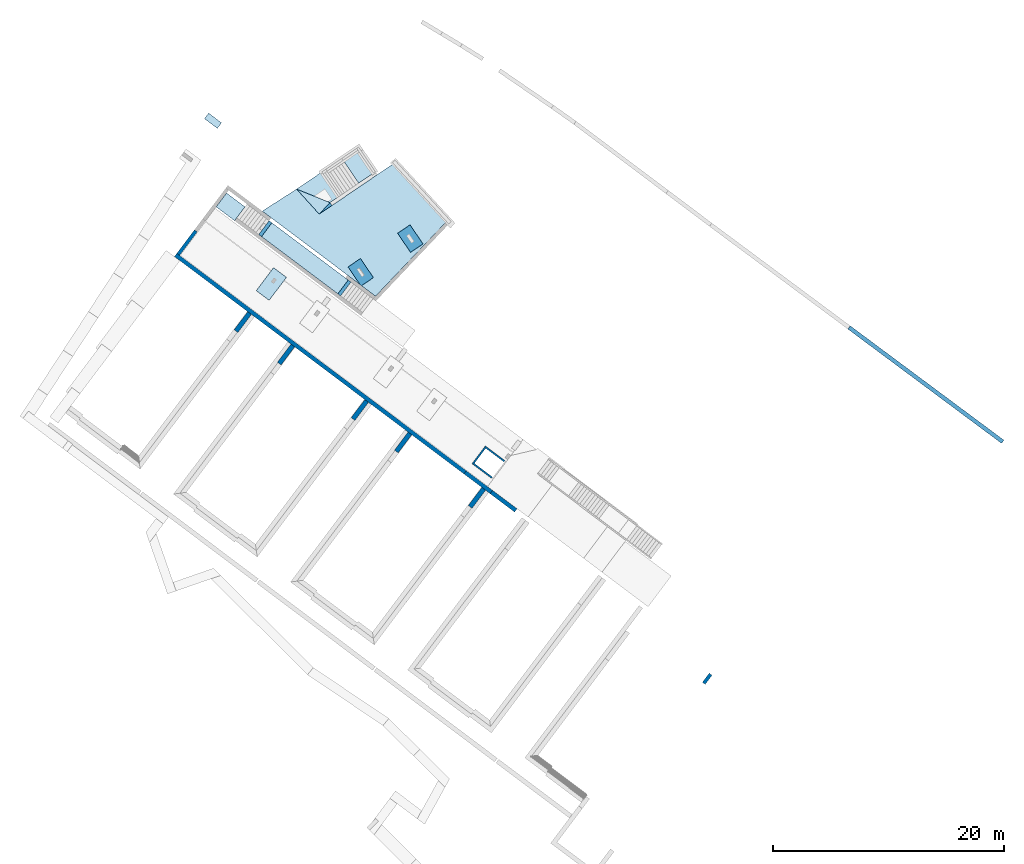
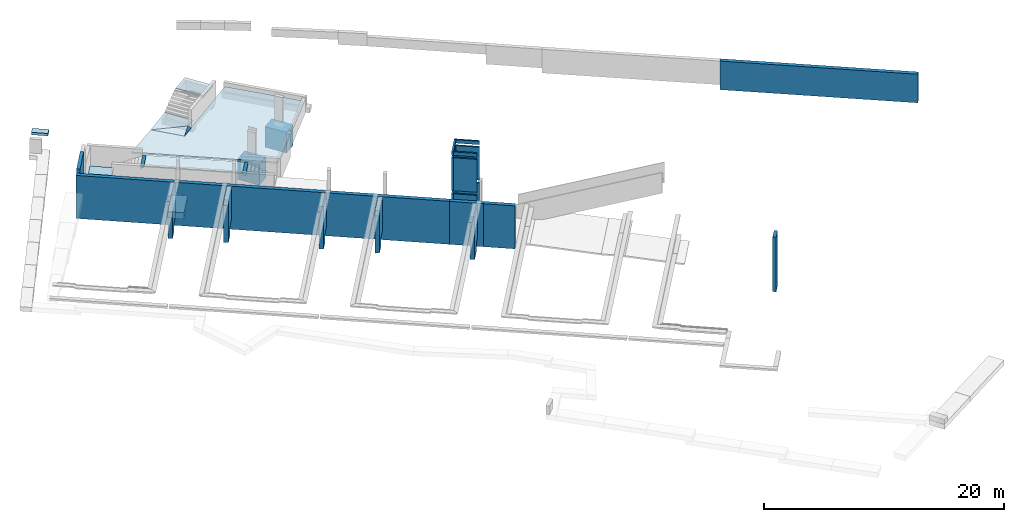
# One storey, part 3 of 11: 14 walls, 13 slabs, 12 openings, 3 elements without a shape of their own.
"""IFC2X3 building model written with IfcOpenShell, lengths in metres."""

import ifcopenshell
import ifcopenshell.guid

model = None  # the IFC model being written
_history = None  # IfcOwnerHistory: only IFC2X3 demands one
_inside = {}  # id of a spatial element -> (the spatial element, [elements in it])
_under = {}  # id of a project, library or spatial element -> (it, [spatial elements below it])
_declared = {}  # id of a project -> (the project, [libraries it declares])
_typed = {}  # id of a type object -> (the type object, [elements of that type])
_made_of = {}  # id of a material, layer set ... -> (it, [elements and type objects made of it])


def new_model(schema):
    """Start an empty IFC model of exactly this schema.

    Asked for "IFC4X3", IfcOpenShell would pick the latest addendum, in which some entities
    have other attributes; the version numbers below select the first issue.
    IFC2X3 requires an IfcOwnerHistory on every rooted entity: one is made here for all.
    """
    global model, _history
    if schema == "IFC4X3":
        model = ifcopenshell.file(schema_version=(4, 3, 0, 0))
    else:
        model = ifcopenshell.file(schema=schema)
    _inside.clear()
    _under.clear()
    _declared.clear()
    _typed.clear()
    _made_of.clear()
    _history = None
    if model.schema == "IFC2X3":
        org = make("IfcOrganization", Name="unknown")
        user = make(
            "IfcPersonAndOrganization",
            ThePerson=make("IfcPerson", FamilyName="unknown"),
            TheOrganization=org,
        )
        app = make(
            "IfcApplication",
            ApplicationDeveloper=org,
            Version="unknown",
            ApplicationFullName="unknown",
            ApplicationIdentifier="unknown",
        )
        _history = make(
            "IfcOwnerHistory",
            OwningUser=user,
            OwningApplication=app,
            ChangeAction="ADDED",
            CreationDate=0,
        )
    return model


def make(cls, **values):
    """One entity of the class cls with the attributes given. An attribute that is None is left unset."""
    return model.create_entity(
        cls, **{name: value for name, value in values.items() if value is not None}
    )


def entity(cls, *values):
    """Any entity or typed value of the class cls, its attributes in the order of the schema. None: left unset."""
    e = model.create_entity(cls)
    for i, value in enumerate(values):
        if value is not None:
            e[i] = value
    return e


def rooted(cls, **values):
    """An entity with a GlobalId (a new one), such as an element, a storey or a relation."""
    return make(cls, GlobalId=ifcopenshell.guid.new(), OwnerHistory=_history, **values)


def si_unit(unit_type, name, prefix=None):
    """IfcSIUnit, for example si_unit("LENGTHUNIT", "METRE", prefix="MILLI")."""
    return make("IfcSIUnit", UnitType=unit_type, Prefix=prefix, Name=name)


def converted_unit(unit_type, name, factor, base, dimensions=None, offset=None):
    """IfcConversionBasedUnit, such as the inch: factor (a typed value) times the base unit."""
    return make(
        "IfcConversionBasedUnit"
        if offset is None
        else "IfcConversionBasedUnitWithOffset",
        ConversionOffset=offset,
        Dimensions=None
        if dimensions is None
        else entity("IfcDimensionalExponents", *dimensions),
        UnitType=unit_type,
        Name=name,
        ConversionFactor=make(
            "IfcMeasureWithUnit", ValueComponent=factor, UnitComponent=base
        ),
    )


def derived_unit(unit_type, elements):
    """IfcDerivedUnit: a product of units, each with its exponent."""
    return make(
        "IfcDerivedUnit",
        Elements=[
            make("IfcDerivedUnitElement", Unit=unit, Exponent=power)
            for unit, power in elements
        ],
        UnitType=unit_type,
    )


def assignment(units):
    """IfcUnitAssignment: the units of a project."""
    return None if units is None else make("IfcUnitAssignment", Units=units)


def point(xyz):
    """IfcCartesianPoint."""
    return None if xyz is None else make("IfcCartesianPoint", Coordinates=xyz)


def direction(xyz):
    """IfcDirection."""
    return None if xyz is None else make("IfcDirection", DirectionRatios=xyz)


def frame(location, z_axis=None, x_axis=None):
    """IfcAxis2Placement3D, a coordinate frame: its origin and axes. An axis left out is left unset."""
    return make(
        "IfcAxis2Placement3D",
        Location=point(location),
        Axis=direction(z_axis),
        RefDirection=direction(x_axis),
    )


def frame_2d(location, x_axis=None):
    """IfcAxis2Placement2D, a coordinate frame in the plane: its origin and x axis."""
    return make(
        "IfcAxis2Placement2D", Location=point(location), RefDirection=direction(x_axis)
    )


def origin():
    """The frame at (0, 0, 0) with its axes left unset."""
    return frame((0.0, 0.0, 0.0))


def origin_2d_with_axis():
    """The frame at (0, 0) in the plane with the x axis (1, 0) written out."""
    return frame_2d((0.0, 0.0), x_axis=(1.0, 0.0))


def place(relative_to, where):
    """IfcLocalPlacement: puts the frame where relative to a parent placement (None: the world)."""
    return make(
        "IfcLocalPlacement", PlacementRelTo=relative_to, RelativePlacement=where
    )


def context(
    kind, dimensions, precision=None, world=None, true_north=None, identifier=None
):
    """IfcGeometricRepresentationContext, for example the 3D "Model" context."""
    return make(
        "IfcGeometricRepresentationContext",
        ContextIdentifier=identifier,
        ContextType=kind,
        CoordinateSpaceDimension=dimensions,
        Precision=precision,
        WorldCoordinateSystem=world,
        TrueNorth=true_north,
    )


def subcontext(parent, identifier, kind, view, scale=None):
    """IfcGeometricRepresentationSubContext, for example "Body" below "Model"."""
    return make(
        "IfcGeometricRepresentationSubContext",
        ContextIdentifier=identifier,
        ContextType=kind,
        ParentContext=parent,
        TargetScale=scale,
        TargetView=view,
    )


def project(units=None, contexts=None):
    """IfcProject with its units and contexts."""
    return rooted(
        "IfcProject",
        Name="project",
        RepresentationContexts=contexts,
        UnitsInContext=assignment(units),
    )


def spatial(cls, under=None, at=None, **own):
    """A site, building, storey or space (cls), placed at a placement, below another one or the project."""
    s = rooted(cls, ObjectPlacement=at, **own)
    if under is not None:
        _under.setdefault(under.id(), (under, []))[1].append(s)
    return s


def polyline(points):
    """IfcPolyline through the points."""
    return make("IfcPolyline", Points=[point(p) for p in points])


def profile(cls, at=None, kind="AREA", **sizes):
    """A parametric profile (cls). Its sizes go by their IFC names, for example OverallWidth=200.0."""
    return make(cls, ProfileType=kind, Position=at, **sizes)


def rectangle(**sizes):
    """IfcRectangleProfileDef."""
    return profile("IfcRectangleProfileDef", **sizes)


def outline(outer, holes=None, kind="AREA"):
    """IfcArbitraryClosedProfileDef: a profile drawn as a closed curve; with holes, ...WithVoids."""
    if holes is None:
        return make("IfcArbitraryClosedProfileDef", ProfileType=kind, OuterCurve=outer)
    return make(
        "IfcArbitraryProfileDefWithVoids",
        ProfileType=kind,
        OuterCurve=outer,
        InnerCurves=holes,
    )


def extrude(swept, where, along, depth):
    """IfcExtrudedAreaSolid: the profile swept, set in the frame where, extruded along a direction by depth."""
    return make(
        "IfcExtrudedAreaSolid",
        SweptArea=swept,
        Position=where,
        ExtrudedDirection=direction(along),
        Depth=depth,
    )


def clip(a, b, op="DIFFERENCE"):
    """IfcBooleanClippingResult: the solid a cut by the half space b."""
    return make(
        "IfcBooleanClippingResult", Operator=op, FirstOperand=a, SecondOperand=b
    )


def halfspace(plane, agree):
    """IfcHalfSpaceSolid: all space on one side of the plane z = 0 of the frame plane."""
    return make(
        "IfcHalfSpaceSolid",
        BaseSurface=make("IfcPlane", Position=plane),
        AgreementFlag=agree,
    )


def shape(context_of_items, identifier, shape_type, items):
    """IfcShapeRepresentation: the items that make up one representation, for example the "Body"."""
    return make(
        "IfcShapeRepresentation",
        ContextOfItems=context_of_items,
        RepresentationIdentifier=identifier,
        RepresentationType=shape_type,
        Items=items,
    )


def material(Name=None, Category=None):
    """IfcMaterial."""
    return make("IfcMaterial", Name=Name, Category=Category)


def layer(
    of_material, thickness, ventilated=None, Name=None, Category=None, Priority=None
):
    """IfcMaterialLayer: one layer of a wall or slab, of a material (None: an air gap)."""
    return make(
        "IfcMaterialLayer",
        Material=of_material,
        LayerThickness=thickness,
        IsVentilated=ventilated,
        Name=Name,
        Category=Category,
        Priority=Priority,
    )


def layer_set(layers, Name=None):
    """IfcMaterialLayerSet."""
    return make("IfcMaterialLayerSet", MaterialLayers=layers, LayerSetName=Name)


def layer_usage(for_layer_set, set_direction, sense, offset, extent=None):
    """IfcMaterialLayerSetUsage: how a layer set lies in its element."""
    return make(
        "IfcMaterialLayerSetUsage",
        ForLayerSet=for_layer_set,
        LayerSetDirection=set_direction,
        DirectionSense=sense,
        OffsetFromReferenceLine=offset,
        ReferenceExtent=extent,
    )


def made_of(thing, what):
    """Note that an element or type object is made of a material, layer set ...; save() writes the relation."""
    if what is not None:
        _made_of.setdefault(what.id(), (what, []))[1].append(thing)
    return thing


def type_object(cls, material=None, **own):
    """A type object (cls), such as IfcWallType, which elements share."""
    return made_of(rooted(cls, **own), material)


def element(
    cls,
    number,
    at=None,
    inside=None,
    cuts=None,
    type_object=None,
    material=None,
    context=None,
    identifier="Body",
    shape_type=None,
    held_by="IfcProductDefinitionShape",
    body=None,
    shapes=None,
    **own,
):
    """One element of the class cls, such as IfcWall. Its Tag is "e" and its number.

    at: its placement. inside: the storey or other place that contains it. cuts: it is an
    opening in that element (IfcRelVoidsElement). A single representation is given by context,
    identifier, shape_type and body (its items); several are given by shapes. held_by: the class
    of the entity that holds the representations. save() writes the other relations.
    """
    e = rooted(cls, Tag="e%d" % number, ObjectPlacement=at, **own)
    if body is not None:
        shapes = [shape(context, identifier, shape_type, body)]
    if shapes is not None:
        e.Representation = make(held_by, Representations=shapes)
    if inside is not None:
        _inside.setdefault(inside.id(), (inside, []))[1].append(e)
    if cuts is not None:
        rooted(
            "IfcRelVoidsElement", RelatingBuildingElement=cuts, RelatedOpeningElement=e
        )
    if type_object is not None:
        _typed.setdefault(type_object.id(), (type_object, []))[1].append(e)
    return made_of(e, material)


def aggregate(whole, parts):
    """IfcRelAggregates: a whole, such as a stair, and the parts it consists of."""
    return rooted("IfcRelAggregates", RelatingObject=whole, RelatedObjects=parts)


def save(model, path):
    """Write the relations noted so far, then the file.

    IfcRelAggregates (storeys below a building ...), IfcRelContainedInSpatialStructure (elements
    in a storey), IfcRelDefinesByType, IfcRelAssociatesMaterial and IfcRelDeclares: one each for
    every whole, place, type object, material and project.
    """
    for whole, parts in _under.values():
        aggregate(whole, parts)
    for where, things in _inside.values():
        rooted(
            "IfcRelContainedInSpatialStructure",
            RelatedElements=things,
            RelatingStructure=where,
        )
    for kind, things in _typed.values():
        rooted("IfcRelDefinesByType", RelatedObjects=things, RelatingType=kind)
    for what, things in _made_of.values():
        rooted("IfcRelAssociatesMaterial", RelatedObjects=things, RelatingMaterial=what)
    for by, libraries in _declared.values():
        rooted("IfcRelDeclares", RelatingContext=by, RelatedDefinitions=libraries)
    model.write(path)


model = new_model("IFC2X3")

# Units and contexts
model_context = context("Model", 3, precision=1e-05, world=origin(), true_north=direction((6.123031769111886e-17, 1.0)))
body_context = subcontext(model_context, "Body", "Model", "MODEL_VIEW")
ifc_project = project(units=[si_unit("LENGTHUNIT", "METRE"), si_unit("AREAUNIT", "SQUARE_METRE"), si_unit("VOLUMEUNIT", "CUBIC_METRE"), converted_unit("PLANEANGLEUNIT", "DEGREE", entity("IfcRatioMeasure", 0.017453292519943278), si_unit("PLANEANGLEUNIT", "RADIAN"), dimensions=[0, 0, 0, 0, 0, 0, 0]), si_unit("MASSUNIT", "GRAM", prefix="KILO"), derived_unit("MASSDENSITYUNIT", [(si_unit("MASSUNIT", "GRAM", prefix="KILO"), 1), (si_unit("LENGTHUNIT", "METRE"), -3)]), derived_unit("IONCONCENTRATIONUNIT", [(si_unit("MASSUNIT", "GRAM", prefix="KILO"), 1), (si_unit("LENGTHUNIT", "METRE"), -3)]), derived_unit("MOMENTOFINERTIAUNIT", [(si_unit("LENGTHUNIT", "METRE"), 4)]), si_unit("TIMEUNIT", "SECOND"), si_unit("FREQUENCYUNIT", "HERTZ"), si_unit("THERMODYNAMICTEMPERATUREUNIT", "DEGREE_CELSIUS"), derived_unit("THERMALTRANSMITTANCEUNIT", [(si_unit("MASSUNIT", "GRAM", prefix="KILO"), 1), (si_unit("THERMODYNAMICTEMPERATUREUNIT", "KELVIN"), -1), (si_unit("TIMEUNIT", "SECOND"), -3)]), derived_unit("THERMALCONDUCTANCEUNIT", [(si_unit("MASSUNIT", "GRAM", prefix="KILO"), 1), (si_unit("THERMODYNAMICTEMPERATUREUNIT", "KELVIN"), -1), (si_unit("TIMEUNIT", "SECOND"), -3), (si_unit("LENGTHUNIT", "METRE"), 1)]), derived_unit("VOLUMETRICFLOWRATEUNIT", [(si_unit("LENGTHUNIT", "METRE"), 3), (si_unit("TIMEUNIT", "SECOND"), -1)]), derived_unit("MASSFLOWRATEUNIT", [(si_unit("MASSUNIT", "GRAM", prefix="KILO"), 1), (si_unit("TIMEUNIT", "SECOND"), -1)]), derived_unit("ROTATIONALFREQUENCYUNIT", [(si_unit("TIMEUNIT", "SECOND"), -1)]), si_unit("ELECTRICCURRENTUNIT", "AMPERE"), si_unit("ELECTRICVOLTAGEUNIT", "VOLT"), si_unit("POWERUNIT", "WATT"), si_unit("FORCEUNIT", "NEWTON", prefix="KILO"), si_unit("ILLUMINANCEUNIT", "LUX"), si_unit("LUMINOUSFLUXUNIT", "LUMEN"), si_unit("LUMINOUSINTENSITYUNIT", "CANDELA"), derived_unit("USERDEFINED", [(si_unit("MASSUNIT", "GRAM", prefix="KILO"), -1), (si_unit("LENGTHUNIT", "METRE"), -2), (si_unit("TIMEUNIT", "SECOND"), 3), (si_unit("LUMINOUSFLUXUNIT", "LUMEN"), 1)]), derived_unit("USERDEFINED", [(si_unit("MASSUNIT", "GRAM", prefix="KILO"), 1), (si_unit("TIMEUNIT", "SECOND"), -3), (si_unit("LENGTHUNIT", "METRE"), 3), (si_unit("ELECTRICCURRENTUNIT", "AMPERE"), -2)]), derived_unit("SOUNDPOWERUNIT", [(si_unit("MASSUNIT", "GRAM", prefix="KILO"), 1), (si_unit("TIMEUNIT", "SECOND"), -3), (si_unit("LENGTHUNIT", "METRE"), 2)]), derived_unit("SOUNDPRESSUREUNIT", [(si_unit("MASSUNIT", "GRAM", prefix="KILO"), 1), (si_unit("LENGTHUNIT", "METRE"), -1), (si_unit("TIMEUNIT", "SECOND"), -2)]), derived_unit("LINEARVELOCITYUNIT", [(si_unit("LENGTHUNIT", "METRE"), 1), (si_unit("TIMEUNIT", "SECOND"), -1)]), si_unit("PRESSUREUNIT", "PASCAL"), derived_unit("USERDEFINED", [(si_unit("MASSUNIT", "GRAM", prefix="KILO"), 1), (si_unit("LENGTHUNIT", "METRE"), -2), (si_unit("TIMEUNIT", "SECOND"), -2)]), derived_unit("LINEARFORCEUNIT", [(si_unit("MASSUNIT", "GRAM", prefix="KILO"), 1), (si_unit("TIMEUNIT", "SECOND"), -2)]), derived_unit("PLANARFORCEUNIT", [(si_unit("MASSUNIT", "GRAM", prefix="KILO"), 1), (si_unit("LENGTHUNIT", "METRE"), -1), (si_unit("TIMEUNIT", "SECOND"), -2)]), derived_unit("SPECIFICHEATCAPACITYUNIT", [(si_unit("THERMODYNAMICTEMPERATUREUNIT", "KELVIN"), -1), (si_unit("LENGTHUNIT", "METRE"), 2), (si_unit("TIMEUNIT", "SECOND"), -2)]), derived_unit("HEATINGVALUEUNIT", [(si_unit("LENGTHUNIT", "METRE"), 2), (si_unit("TIMEUNIT", "SECOND"), -2)]), derived_unit("VAPORPERMEABILITYUNIT", [(si_unit("LENGTHUNIT", "METRE"), -1), (si_unit("TIMEUNIT", "SECOND"), 1)]), derived_unit("DYNAMICVISCOSITYUNIT", [(si_unit("MASSUNIT", "GRAM", prefix="KILO"), 1), (si_unit("TIMEUNIT", "SECOND"), -1), (si_unit("LENGTHUNIT", "METRE"), -1)]), derived_unit("THERMALEXPANSIONCOEFFICIENTUNIT", [(si_unit("THERMODYNAMICTEMPERATUREUNIT", "KELVIN"), -1)]), derived_unit("MODULUSOFELASTICITYUNIT", [(si_unit("MASSUNIT", "GRAM", prefix="KILO"), 1), (si_unit("LENGTHUNIT", "METRE"), -1), (si_unit("TIMEUNIT", "SECOND"), -2)]), derived_unit("ISOTHERMALMOISTURECAPACITYUNIT", [(si_unit("LENGTHUNIT", "METRE"), 3), (si_unit("MASSUNIT", "GRAM", prefix="KILO"), -1)]), derived_unit("MOISTUREDIFFUSIVITYUNIT", [(si_unit("TIMEUNIT", "SECOND"), -1), (si_unit("LENGTHUNIT", "METRE"), 2)])], contexts=[model_context])

# Site, building, storey
site_placement = place(None, origin())
site = spatial("IfcSite", under=ifc_project, at=site_placement, Name="Default", CompositionType="ELEMENT")
building_placement = place(site_placement, frame((0.0, 0.0, 235.0), z_axis=(0.0, 0.0, 1.0), x_axis=(-0.7996477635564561, 0.6004693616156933, 0.0)))
building = spatial("IfcBuilding", under=site, at=building_placement, CompositionType="ELEMENT")
storey_placement = place(building_placement, frame((0.0, 0.0, -4.459999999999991)))
storey = spatial("IfcBuildingStorey", under=building, at=storey_placement, Name="PS1- Vestuari", CompositionType="ELEMENT", Elevation=-4.459999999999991)

# Slabs
ifc_material_1 = material(Name="_Formigó- Solera- T1- STR")
ifc_layer_1 = layer(ifc_material_1, 0.14999999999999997)
ifc_layer_set_1 = layer_set([ifc_layer_1], Name="Suelo:STR- L- Formigó- Solera- T1- 15 cm")
ifc_layer_usage_1 = layer_usage(ifc_layer_set_1, "AXIS3", "POSITIVE", 0.0)
slab_type_1 = type_object("IfcSlabType", Name="Suelo:STR- L- Formigó- Solera- T1- 15 cm", PredefinedType="FLOOR", material=ifc_layer_set_1)
slab_1_placement = place(storey_placement, origin())
element("IfcSlab", 1, at=slab_1_placement, inside=storey, type_object=slab_type_1, material=ifc_layer_usage_1, Name="Suelo:STR- L- Formigó- Solera- T1- 15 cm", ObjectType="Suelo:STR- L- Formigó- Solera- T1- 15 cm", PredefinedType="FLOOR", context=body_context, shape_type="SweptSolid", body=[
    clip(clip(extrude(rectangle(XDim=1.500299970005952, YDim=1.9999999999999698, at=origin_2d_with_axis()), frame((73.44514768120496, -42.79019175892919, -0.03499999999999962), z_axis=(0.0, -0.019996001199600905, -0.999800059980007), x_axis=(0.0, 0.999800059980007, -0.019996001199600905)), (0.019996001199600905, 0.0, 0.999800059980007), 0.15002999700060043), halfspace(frame((73.44514768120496, -42.79019175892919, -0.18499999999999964), z_axis=(0.0, -0.019996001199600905, -0.999800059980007), x_axis=(-1.0, 0.0, 0.0)), False)), halfspace(frame((73.44514768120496, -42.79019175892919, -0.03499999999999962), z_axis=(0.0, 0.019996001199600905, 0.999800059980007), x_axis=(-1.0, 0.0, 0.0)), False)),
])
slab_2_placement = place(storey_placement, origin())
element("IfcSlab", 2, at=slab_2_placement, inside=storey, type_object=slab_type_1, material=ifc_layer_usage_1, Name="Suelo:STR- L- Formigó- Solera- T1- 15 cm", ObjectType="Suelo:STR- L- Formigó- Solera- T1- 15 cm", PredefinedType="FLOOR", context=body_context, shape_type="SweptSolid", body=[
    clip(clip(extrude(outline(polyline([(-6.028358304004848, -4.182198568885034), (6.269502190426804, -4.182198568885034), (5.0291619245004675, -0.8617708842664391), (2.158940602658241, -1.4164295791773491), (-0.3625370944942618, 5.9436305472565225), (-7.0667093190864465, 4.69896705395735), (-6.028358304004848, -4.182198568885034)])), frame((64.75741787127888, -48.32155413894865, 1.343627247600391), z_axis=(0.0, -0.019996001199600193, -0.9998000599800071), x_axis=(1.0, 0.0, 0.0)), (0.0, -0.019996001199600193, 0.9998000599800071), 0.1500600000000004), halfspace(frame((63.23614768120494, -44.140191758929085, 1.1099700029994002), z_axis=(0.0, -0.01999600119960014, -0.999800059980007), x_axis=(0.0, -0.999800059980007, 0.01999600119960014)), False)), halfspace(frame((63.23614768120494, -44.140191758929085, 1.26), z_axis=(0.0, 0.01999600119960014, 0.999800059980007), x_axis=(0.0, 0.999800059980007, -0.01999600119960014)), False)),
])
slab_3_placement = place(storey_placement, origin())
element("IfcSlab", 3, at=slab_3_placement, inside=storey, type_object=slab_type_1, material=ifc_layer_usage_1, Name="Suelo:STR- L- Formigó- Solera- T1- 15 cm", ObjectType="Suelo:STR- L- Formigó- Solera- T1- 15 cm", PredefinedType="FLOOR", context=body_context, shape_type="SweptSolid", body=[
    clip(clip(extrude(rectangle(XDim=1.5001333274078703, YDim=8.273000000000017, at=frame_2d((8.715250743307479e-15, -3.9968028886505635e-15), x_axis=(1.0, 0.0))), frame((65.60864768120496, -43.090191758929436, 1.25), z_axis=(0.0, -0.013332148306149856, -0.9999111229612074), x_axis=(0.0, 0.9999111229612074, -0.013332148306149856)), (0.013332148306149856, 0.0, 0.9999111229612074), 0.15001333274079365), halfspace(frame((65.60864768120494, -43.090191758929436, 1.1), z_axis=(0.0, -0.013332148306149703, -0.9999111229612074), x_axis=(1.0, 0.0, 0.0)), False)), halfspace(frame((65.60864768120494, -43.090191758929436, 1.25), z_axis=(0.0, 0.013332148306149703, 0.9999111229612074), x_axis=(1.0, 0.0, 0.0)), False)),
])

slab_4_placement = place(storey_placement, frame((66.47308143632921, -49.965716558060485, 1.1711717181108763)))
slab_4 = element("IfcSlab", 4, at=slab_4_placement, inside=storey, Name="Suelo:STR- L- Formigó- Solera- T1- 15 cm", ObjectType="Suelo:STR- L- Formigó- Solera- T1- 15 cm", PredefinedType="NOTDEFINED")
slab_5_placement = place(slab_4_placement, origin())
slab_5 = element("IfcSlab", 5, at=slab_5_placement, type_object=slab_type_1, material=ifc_layer_set_1, Name="Suelo:STR- L- Formigó- Solera- T1- 15 cm", ObjectType="Suelo:STR- L- Formigó- Solera- T1- 15 cm", PredefinedType="FLOOR", context=body_context, shape_type="SweptSolid", body=[
    extrude(outline(polyline([(-1.6569507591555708, -0.8343303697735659), (0.7982277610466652, -1.6746418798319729), (1.6569507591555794, 0.8343303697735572), (-1.3629058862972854, 0.024794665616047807), (-1.6569507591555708, -0.8343303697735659)])), frame((1.6567491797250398, 1.6734723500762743, 0.225025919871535), z_axis=(0.01559804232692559, 0.04552075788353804, 0.9988416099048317), x_axis=(0.9998783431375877, -0.0007101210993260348, -0.015581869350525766)), (0.015581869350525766, 0.04552629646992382, -0.9988416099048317), 0.15000000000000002),
])
slab_6_placement = place(slab_4_placement, origin())
slab_6 = element("IfcSlab", 6, at=slab_6_placement, type_object=slab_type_1, material=ifc_layer_set_1, Name="Suelo:STR- L- Formigó- Solera- T1- 15 cm", ObjectType="Suelo:STR- L- Formigó- Solera- T1- 15 cm", PredefinedType="FLOOR", context=body_context, shape_type="SweptSolid", body=[
    extrude(outline(polyline([(-0.3664589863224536, -0.5787201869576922), (-0.0763047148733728, -0.6820252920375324), (0.07630471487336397, 0.6820252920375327), (-0.3664589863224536, -0.5787201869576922)])), frame((0.3686430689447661, 2.379758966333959, 0.19756686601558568), z_axis=(-0.2081153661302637, 0.09089196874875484, 0.9738719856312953), x_axis=(0.9781042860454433, 0.01933946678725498, 0.2072148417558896)), (-0.2072148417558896, 0.09292666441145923, -0.9738719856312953), 0.15000000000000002),
])
slab_7_placement = place(slab_4_placement, origin())
slab_7 = element("IfcSlab", 7, at=slab_7_placement, type_object=slab_type_1, material=ifc_layer_set_1, Name="Suelo:STR- L- Formigó- Solera- T1- 15 cm", ObjectType="Suelo:STR- L- Formigó- Solera- T1- 15 cm", PredefinedType="FLOOR", context=body_context, shape_type="SweptSolid", body=[
    extrude(outline(polyline([(-1.3440350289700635, -1.0228927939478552), (1.6755868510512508, -0.21248183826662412), (-1.1947605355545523, 0.34152677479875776), (-1.3440350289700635, -1.0228927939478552)])), frame((1.6379850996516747, 2.718819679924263, 0.16229245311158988), z_axis=(0.009372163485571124, 0.06869873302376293, 0.9975934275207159), x_axis=(0.9999560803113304, -0.0006438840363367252, -0.009350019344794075)), (0.009350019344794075, 0.06870175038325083, -0.9975934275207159), 0.15000000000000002),
])
aggregate(slab_4, [slab_5, slab_6, slab_7])

# Slab
ifc_layer_2 = layer(ifc_material_1, 0.2)
ifc_layer_set_2 = layer_set([ifc_layer_2], Name="Suelo:STR- L- Formigó- Solera- T1- 20 cm")
ifc_layer_usage_2 = layer_usage(ifc_layer_set_2, "AXIS3", "POSITIVE", 0.0)
slab_type_2 = type_object("IfcSlabType", Name="Suelo:STR- L- Formigó- Solera- T1- 20 cm", PredefinedType="FLOOR", material=ifc_layer_set_2)
slab_8_placement = place(storey_placement, origin())
element("IfcSlab", 8, at=slab_8_placement, inside=storey, type_object=slab_type_2, material=ifc_layer_usage_2, Name="Suelo:STR- L- Formigó- Solera- T1- 20 cm", ObjectType="Suelo:STR- L- Formigó- Solera- T1- 20 cm", PredefinedType="FLOOR", context=body_context, shape_type="SweptSolid", body=[
    extrude(rectangle(XDim=1.7499999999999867, YDim=2.5949999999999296, at=frame_2d((-1.27675647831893e-15, 9.658940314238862e-15), x_axis=(1.0, 0.0))), frame((66.7361585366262, -52.35948597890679, 2.58), z_axis=(0.0, 0.0, -1.0), x_axis=(-0.3241555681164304, -0.9460037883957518, 0.0)), (0.0, 0.0, 1.0), 0.19999999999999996),
])

# Stair, slab
stair_1_placement = place(storey_placement, origin())
stair_1 = element("IfcStair", 9, at=stair_1_placement, inside=storey, Name="Escalera moldeada in situ:Escalera", ShapeType="STRAIGHT_RUN_STAIR")
ifc_material_2 = material(Name="_Formigó- T1- STR")
slab_type_3 = type_object("IfcSlabType", Name="Descansillo monolítico:STR- Repla formigó 15cm", PredefinedType="LANDING")
slab_9_placement = place(stair_1_placement, frame((61.17214768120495, -43.840191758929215, 0.0)))
slab_9 = element("IfcSlab", 10, at=slab_9_placement, type_object=slab_type_3, material=ifc_material_2, Name="Escalera moldeada in situ:Escalera:42180 Landing 1", ObjectType="Descansillo monolítico:STR- Repla formigó 15cm", PredefinedType="LANDING", context=body_context, shape_type="SweptSolid", body=[
    extrude(outline(polyline([(-0.14761769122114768, -0.15000000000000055), (0.002382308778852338, -0.15000000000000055), (0.07467982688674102, -0.15000000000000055), (0.22023538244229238, 0.15000000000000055), (-0.0020621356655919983, 0.15000000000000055), (-0.14761769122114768, 0.15000000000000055), (-0.14761769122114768, -0.15000000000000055)])), frame((0.15000000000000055, 0.0, 1.1123823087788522), z_axis=(0.0, 1.0, 0.0), x_axis=(0.0, 0.0, -1.0)), (0.0, 0.0, 1.0), 1.499999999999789),
])
aggregate(stair_1, [slab_9])

stair_2_placement = place(storey_placement, origin())
stair_2 = element("IfcStair", 11, at=stair_2_placement, inside=storey, Name="Escalera moldeada in situ:Escalera", ShapeType="STRAIGHT_RUN_STAIR")
slab_10_placement = place(stair_2_placement, frame((69.74514768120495, -43.84019175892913, 0.0)))
slab_10 = element("IfcSlab", 12, at=slab_10_placement, type_object=slab_type_3, material=ifc_material_2, Name="Escalera moldeada in situ:Escalera:42290 Landing 1", ObjectType="Descansillo monolítico:STR- Repla formigó 15cm", PredefinedType="LANDING", context=body_context, shape_type="SweptSolid", body=[
    extrude(outline(polyline([(-0.1476176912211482, -0.15000000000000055), (-0.0020621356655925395, -0.15000000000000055), (0.2202353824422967, -0.15000000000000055), (0.07467982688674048, 0.15000000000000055), (0.002382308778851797, 0.15000000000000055), (-0.1476176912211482, 0.15000000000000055), (-0.1476176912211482, -0.15000000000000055)])), frame((0.15000000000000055, 0.0, 1.1123823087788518), z_axis=(0.0, 1.0, 0.0), x_axis=(0.0, 0.0, -1.0)), (0.0, 0.0, 1.0), 1.4999999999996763),
])
aggregate(stair_2, [slab_10])

# Slabs
slab_type_4 = type_object("IfcSlabType", Name="STR- S- Formigó- Rectangular- T1:140x250x60 cm", PredefinedType="BASESLAB", material=ifc_material_2)
slab_11_placement = place(storey_placement, frame((65.89514768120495, -40.815191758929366, -1.0899999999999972)))
element("IfcSlab", 13, at=slab_11_placement, inside=storey, type_object=slab_type_4, Name="STR- S- Formigó- Rectangular- T1:140x250x60 cm", ObjectType="STR- S- Formigó- Rectangular- T1:140x250x60 cm", PredefinedType="BASESLAB", context=body_context, shape_type="SweptSolid", body=[
    extrude(rectangle(XDim=1.4000000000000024, YDim=2.5000000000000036, at=frame_2d((4.3298697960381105e-15, 0.0), x_axis=(1.0, 0.0))), frame((0.6999999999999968, 1.2500000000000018, 0.0499999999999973), z_axis=(0.0, 0.0, 1.0), x_axis=(-1.0, 0.0, 0.0)), (0.0, 0.0, 1.0), 0.6000000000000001),
    extrude(rectangle(XDim=1.3999999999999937, YDim=2.4999999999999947, at=frame_2d((0.0, -4.3298697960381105e-15), x_axis=(1.0, 0.0))), frame((0.6999999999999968, 1.2500000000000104, 0.0)), (0.0, 0.0, 1.0), 0.04999999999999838),
])
slab_type_5 = type_object("IfcSlabType", Name="STR- S- Formigó- Rectangular+pou- T1:130x200x60 cm", PredefinedType="BASESLAB", material=ifc_material_2)
slab_12_placement = place(storey_placement, frame((59.84807859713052, -45.96997174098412, -1.1900000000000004)))
element("IfcSlab", 14, at=slab_12_placement, inside=storey, type_object=slab_type_5, Name="STR- S- Formigó- Rectangular+pou- T1:130x200x60 cm", ObjectType="STR- S- Formigó- Rectangular+pou- T1:130x200x60 cm", PredefinedType="BASESLAB", context=body_context, shape_type="SweptSolid", body=[
    extrude(rectangle(XDim=1.3000000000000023, YDim=2.000000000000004, at=origin_2d_with_axis()), frame((1.1567049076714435, 0.9390580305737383, 1.5000000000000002), z_axis=(0.0, 0.0, 1.0), x_axis=(-0.32415556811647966, -0.9460037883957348, 0.0)), (0.0, 0.0, 1.0), 0.6000000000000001),
    extrude(rectangle(XDim=1.300000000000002, YDim=2.0000000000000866, at=frame_2d((6.938893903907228e-15, -6.772360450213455e-15), x_axis=(1.0, 0.0))), frame((1.1567049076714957, 0.9390580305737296, 0.0), z_axis=(0.0, 0.0, 1.0), x_axis=(-0.32415556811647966, -0.9460037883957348, 0.0)), (0.0, 0.0, 1.0), 1.5000000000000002),
])
slab_13_placement = place(storey_placement, frame((58.16246897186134, -50.889193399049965, -1.1900000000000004)))
element("IfcSlab", 15, at=slab_13_placement, inside=storey, type_object=slab_type_5, Name="STR- S- Formigó- Rectangular+pou- T1:130x200x60 cm", ObjectType="STR- S- Formigó- Rectangular+pou- T1:130x200x60 cm", PredefinedType="BASESLAB", context=body_context, shape_type="SweptSolid", body=[
    extrude(rectangle(XDim=1.3000000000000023, YDim=2.000000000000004, at=origin_2d_with_axis()), frame((1.1567049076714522, 0.9390580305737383, 1.5000000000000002), z_axis=(0.0, 0.0, 1.0), x_axis=(-0.32415556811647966, -0.9460037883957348, 0.0)), (0.0, 0.0, 1.0), 0.6000000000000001),
    extrude(rectangle(XDim=1.300000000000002, YDim=2.0000000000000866, at=frame_2d((1.3322676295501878e-15, 9.547918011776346e-15), x_axis=(1.0, 0.0))), frame((1.156704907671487, 0.9390580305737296, 0.0), z_axis=(0.0, 0.0, 1.0), x_axis=(-0.32415556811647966, -0.9460037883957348, 0.0)), (0.0, 0.0, 1.0), 1.5000000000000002),
])
slab_type_6 = type_object("IfcSlabType", Name="STR- Connexió sabat mur biblio3:STR- Connexió sabat mur biblio", PredefinedType="BASESLAB", material=ifc_material_2)
slab_14_placement = place(storey_placement, frame((78.4449378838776, -48.14728884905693, -0.09000000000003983)))
element("IfcSlab", 16, at=slab_14_placement, inside=storey, type_object=slab_type_6, Name="STR- Connexió sabat mur biblio3:STR- Connexió sabat mur biblio", ObjectType="STR- Connexió sabat mur biblio3:STR- Connexió sabat mur biblio", PredefinedType="BASESLAB", context=body_context, shape_type="SweptSolid", body=[
    extrude(rectangle(XDim=1.3999999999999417, YDim=0.5999999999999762, at=frame_2d((8.659739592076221e-15, 8.659739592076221e-15), x_axis=(1.0, 0.0))), frame((0.6999999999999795, 0.29999999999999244, 0.0)), (0.0, 0.0, 1.0), 0.24999999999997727),
])

# Walls
ifc_layer_3 = layer(ifc_material_2, 0.29999999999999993)
ifc_layer_set_3 = layer_set([ifc_layer_3], Name="Muro básico:STR- M- Formigó- Genèric- T1- 30 cm")
ifc_layer_usage_3 = layer_usage(ifc_layer_set_3, "AXIS2", "NEGATIVE", 0.14999999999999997)
wall_type_1 = type_object("IfcWallType", Name="Muro básico:STR- M- Formigó- Genèric- T1- 30 cm", PredefinedType="STANDARD", material=ifc_layer_set_3)
wall_1_placement = place(storey_placement, frame((74.59514768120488, -36.59019175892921, -0.4399999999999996), z_axis=(0.0, 0.0, 1.0), x_axis=(0.0, -1.0, 0.0)))
element("IfcWallStandardCase", 17, at=wall_1_placement, inside=storey, type_object=wall_type_1, material=ifc_layer_usage_3, Name="Muro básico:STR- M- Formigó- Genèric- T1- 30 cm", ObjectType="Muro básico:STR- M- Formigó- Genèric- T1- 30 cm", context=body_context, shape_type="SweptSolid", body=[
    extrude(rectangle(XDim=2.5500000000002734, YDim=0.3000000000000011, at=frame_2d((1.450000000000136, 9.853229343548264e-16), x_axis=(-1.0, 0.0))), origin(), (0.0, 0.0, 1.0), 4.799999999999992),
])
ifc_layer_usage_4 = layer_usage(ifc_layer_set_3, "AXIS2", "POSITIVE", -0.14999999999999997)
wall_2_placement = place(storey_placement, frame((15.79514768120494, -34.38920390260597, -1.5399999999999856), z_axis=(0.0, 0.0, 1.0), x_axis=(0.0, -1.0, 0.0)))
element("IfcWallStandardCase", 18, at=wall_2_placement, inside=storey, type_object=wall_type_1, material=ifc_layer_usage_4, Name="Muro básico:STR- M- Formigó- Genèric- T1- 30 cm", ObjectType="Muro básico:STR- M- Formigó- Genèric- T1- 30 cm", context=body_context, shape_type="SweptSolid", body=[
    extrude(rectangle(XDim=0.9859949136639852, YDim=0.3000000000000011, at=frame_2d((0.4929974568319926, 0.0), x_axis=(-1.0, 0.0))), origin(), (0.0, 0.0, 1.0), 5.559999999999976),
])

# Wall, opening
ifc_layer_4 = layer(ifc_material_2, 0.35)
ifc_layer_set_4 = layer_set([ifc_layer_4], Name="Muro básico:STR- M- Formigó- Genèric- T1- 35 cm")
ifc_layer_usage_5 = layer_usage(ifc_layer_set_4, "AXIS2", "NEGATIVE", 0.175)
wall_type_2 = type_object("IfcWallType", Name="Muro básico:STR- M- Formigó- Genèric- T1- 35 cm", PredefinedType="STANDARD", material=ifc_layer_set_4)
wall_3_placement = place(storey_placement, frame((40.495147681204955, -36.590191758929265, -0.4399999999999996)))
wall_3 = element("IfcWallStandardCase", 19, at=wall_3_placement, inside=storey, type_object=wall_type_2, material=ifc_layer_usage_5, Name="Muro básico:STR- M- Formigó- Genèric- T1- 35 cm", ObjectType="Muro básico:STR- M- Formigó- Genèric- T1- 35 cm", context=body_context, shape_type="SweptSolid", body=[
    extrude(rectangle(XDim=2.850000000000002, YDim=0.3499999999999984, at=frame_2d((1.425000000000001, 0.0), x_axis=(-1.0, 0.0))), origin(), (0.0, 0.0, 1.0), 4.379999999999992),
])
opening_1_placement = place(wall_3_placement, frame((0.5000000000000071, 0.17500000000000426, 0.0)))
element("IfcOpeningElement", 20, at=opening_1_placement, cuts=wall_3, Name="Muro básico:STR- M- Formigó- Genèric- T1- 35 cm", ObjectType="Opening", context=body_context, shape_type="SweptSolid", body=[
    extrude(rectangle(XDim=0.8999999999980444, YDim=0.3999999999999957, at=frame_2d((0.0, 0.0), x_axis=(0.0, 1.0))), frame((0.19999999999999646, 0.0, 0.4499999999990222), z_axis=(0.0, 1.0, 0.0), x_axis=(1.0, 0.0, 0.0)), (0.0, 0.0, 1.0), 0.9000000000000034),
])

# Walls
ifc_layer_usage_6 = layer_usage(ifc_layer_set_4, "AXIS2", "POSITIVE", -0.175)
wall_4_placement = place(storey_placement, frame((43.345147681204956, -36.59019175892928, -0.4399999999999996)))
element("IfcWallStandardCase", 21, at=wall_4_placement, inside=storey, type_object=wall_type_2, material=ifc_layer_usage_6, Name="Muro básico:STR- M- Formigó- Genèric- T1- 35 cm", ObjectType="Muro básico:STR- M- Formigó- Genèric- T1- 35 cm", context=body_context, shape_type="SweptSolid", body=[
    extrude(rectangle(XDim=31.399999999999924, YDim=0.3499999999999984, at=frame_2d((15.699999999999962, 3.469446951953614e-16), x_axis=(-1.0, 0.0))), origin(), (0.0, 0.0, 1.0), 4.379999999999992),
])
wall_5_placement = place(storey_placement, frame((40.49514768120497, -36.590191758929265, -0.4399999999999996), z_axis=(0.0, 0.0, 1.0), x_axis=(-1.0, 0.0, 0.0)))
element("IfcWallStandardCase", 22, at=wall_5_placement, inside=storey, type_object=wall_type_2, material=ifc_layer_usage_5, Name="Muro básico:STR- M- Formigó- Genèric- T1- 35 cm", ObjectType="Muro básico:STR- M- Formigó- Genèric- T1- 35 cm", context=body_context, shape_type="SweptSolid", body=[
    extrude(rectangle(XDim=2.65, YDim=0.3499999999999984, at=frame_2d((1.325, 9.020562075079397e-16), x_axis=(-1.0, 0.0))), origin(), (0.0, 0.0, 1.0), 4.379999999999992),
])
wall_6_placement = place(storey_placement, frame((24.260360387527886, -66.64048176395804, -3.9649999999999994), z_axis=(0.0, 0.0, 1.0), x_axis=(-0.9999891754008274, -0.0046528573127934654, 0.0)))
element("IfcWallStandardCase", 23, at=wall_6_placement, inside=storey, type_object=wall_type_2, material=ifc_layer_usage_5, Name="Muro básico:STR- M- Formigó- Genèric- T1- 35 cm", ObjectType="Muro básico:STR- M- Formigó- Genèric- T1- 35 cm", context=body_context, shape_type="SweptSolid", body=[
    extrude(outline(polyline([(16.622624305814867, -0.1749999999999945), (16.624587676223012, 0.17500000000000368), (0.0, 0.17500000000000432), (0.0, -0.1749999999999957), (16.622624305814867, -0.1749999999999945)])), origin(), (0.0, 0.0, 1.0), 2.915000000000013),
])

# Wall, opening
ifc_layer_5 = layer(ifc_material_2, 0.4)
ifc_layer_set_5 = layer_set([ifc_layer_5], Name="Muro básico:STR- M- Formigó- Genèric- T1- 40 cm")
ifc_layer_usage_7 = layer_usage(ifc_layer_set_5, "AXIS2", "NEGATIVE", 0.2)
wall_type_3 = type_object("IfcWallType", Name="Muro básico:STR- M- Formigó- Genèric- T1- 40 cm", PredefinedType="STANDARD", material=ifc_layer_set_5)
wall_7_placement = place(storey_placement, frame((66.59514768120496, -36.41519175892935, -0.4399999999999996), z_axis=(0.0, 0.0, 1.0), x_axis=(0.0, 1.0, 0.0)))
wall_7 = element("IfcWallStandardCase", 24, at=wall_7_placement, inside=storey, type_object=wall_type_3, material=ifc_layer_usage_7, Name="Muro básico:STR- M- Formigó- Genèric- T1- 40 cm", ObjectType="Muro básico:STR- M- Formigó- Genèric- T1- 40 cm", context=body_context, shape_type="SweptSolid", body=[
    extrude(rectangle(XDim=1.9599999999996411, YDim=0.3999999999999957, at=frame_2d((0.9799999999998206, -1.1657341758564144e-15), x_axis=(-1.0, 0.0))), origin(), (0.0, 0.0, 1.0), 4.329999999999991),
])
opening_2_placement = place(wall_7_placement, frame((0.0, 1.7240000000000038, 0.0), z_axis=(0.0, 0.0, 1.0), x_axis=(0.0, -1.0, 0.0)))
element("IfcOpeningElement", 25, at=opening_2_placement, cuts=wall_7, Name="Muro básico:STR- M- Formigó- Genèric- T1- 40 cm", ObjectType="Opening", context=body_context, shape_type="SweptSolid", body=[
    extrude(rectangle(XDim=0.8999999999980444, YDim=0.899999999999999, at=frame_2d((0.0, 2.1649348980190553e-15), x_axis=(1.0, 0.0))), frame((3.048, 0.4500000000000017, 0.4499999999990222), z_axis=(-1.0, 0.0, 0.0), x_axis=(0.0, 0.0, 1.0)), (0.0, 0.0, 1.0), 3.048),
])

wall_8_placement = place(storey_placement, frame((61.89514768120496, -36.41519175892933, -0.4399999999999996), z_axis=(0.0, 0.0, 1.0), x_axis=(0.0, 1.0, 0.0)))
wall_8 = element("IfcWallStandardCase", 26, at=wall_8_placement, inside=storey, type_object=wall_type_3, material=ifc_layer_usage_7, Name="Muro básico:STR- M- Formigó- Genèric- T1- 40 cm", ObjectType="Muro básico:STR- M- Formigó- Genèric- T1- 40 cm", context=body_context, shape_type="SweptSolid", body=[
    extrude(rectangle(XDim=1.9599999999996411, YDim=0.3999999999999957, at=frame_2d((0.9799999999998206, -1.1657341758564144e-15), x_axis=(-1.0, 0.0))), origin(), (0.0, 0.0, 1.0), 4.329999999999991),
])
opening_3_placement = place(wall_8_placement, frame((0.0, 1.7239999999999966, 0.0), z_axis=(0.0, 0.0, 1.0), x_axis=(0.0, -1.0, 0.0)))
element("IfcOpeningElement", 27, at=opening_3_placement, cuts=wall_8, Name="Muro básico:STR- M- Formigó- Genèric- T1- 40 cm", ObjectType="Opening", context=body_context, shape_type="SweptSolid", body=[
    extrude(rectangle(XDim=0.8999999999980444, YDim=0.899999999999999, at=frame_2d((0.0, 2.1649348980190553e-15), x_axis=(1.0, 0.0))), frame((3.048, 0.4500000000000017, 0.4499999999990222), z_axis=(-1.0, 0.0, 0.0), x_axis=(0.0, 0.0, 1.0)), (0.0, 0.0, 1.0), 3.048),
])

wall_9_placement = place(storey_placement, frame((53.89514768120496, -36.41519175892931, -0.4399999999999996), z_axis=(0.0, 0.0, 1.0), x_axis=(0.0, 1.0, 0.0)))
wall_9 = element("IfcWallStandardCase", 28, at=wall_9_placement, inside=storey, type_object=wall_type_3, material=ifc_layer_usage_7, Name="Muro básico:STR- M- Formigó- Genèric- T1- 40 cm", ObjectType="Muro básico:STR- M- Formigó- Genèric- T1- 40 cm", context=body_context, shape_type="SweptSolid", body=[
    extrude(rectangle(XDim=1.9599999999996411, YDim=0.3999999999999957, at=frame_2d((0.9799999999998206, -1.1657341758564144e-15), x_axis=(-1.0, 0.0))), origin(), (0.0, 0.0, 1.0), 4.329999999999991),
])
opening_4_placement = place(wall_9_placement, frame((0.0, 1.7239999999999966, 0.0), z_axis=(0.0, 0.0, 1.0), x_axis=(0.0, -1.0, 0.0)))
element("IfcOpeningElement", 29, at=opening_4_placement, cuts=wall_9, Name="Muro básico:STR- M- Formigó- Genèric- T1- 40 cm", ObjectType="Opening", context=body_context, shape_type="SweptSolid", body=[
    extrude(rectangle(XDim=0.8999999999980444, YDim=0.899999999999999, at=frame_2d((0.0, -2.1649348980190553e-15), x_axis=(1.0, 0.0))), frame((3.048, 0.450000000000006, 0.4499999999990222), z_axis=(-1.0, 0.0, 0.0), x_axis=(0.0, 0.0, 1.0)), (0.0, 0.0, 1.0), 3.048),
])

wall_10_placement = place(storey_placement, frame((49.195147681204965, -36.41519175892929, -0.4399999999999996), z_axis=(0.0, 0.0, 1.0), x_axis=(0.0, 1.0, 0.0)))
wall_10 = element("IfcWallStandardCase", 30, at=wall_10_placement, inside=storey, type_object=wall_type_3, material=ifc_layer_usage_7, Name="Muro básico:STR- M- Formigó- Genèric- T1- 40 cm", ObjectType="Muro básico:STR- M- Formigó- Genèric- T1- 40 cm", context=body_context, shape_type="SweptSolid", body=[
    extrude(rectangle(XDim=1.9599999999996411, YDim=0.3999999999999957, at=frame_2d((0.9799999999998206, -1.1657341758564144e-15), x_axis=(-1.0, 0.0))), origin(), (0.0, 0.0, 1.0), 4.329999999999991),
])
opening_5_placement = place(wall_10_placement, frame((0.0, 1.7239999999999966, 0.0), z_axis=(0.0, 0.0, 1.0), x_axis=(0.0, -1.0, 0.0)))
element("IfcOpeningElement", 31, at=opening_5_placement, cuts=wall_10, Name="Muro básico:STR- M- Formigó- Genèric- T1- 40 cm", ObjectType="Opening", context=body_context, shape_type="SweptSolid", body=[
    extrude(rectangle(XDim=0.8999999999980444, YDim=0.899999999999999, at=frame_2d((0.0, -2.1649348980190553e-15), x_axis=(1.0, 0.0))), frame((3.048, 0.450000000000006, 0.4499999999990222), z_axis=(-1.0, 0.0, 0.0), x_axis=(0.0, 0.0, 1.0)), (0.0, 0.0, 1.0), 3.048),
])

wall_11_placement = place(storey_placement, frame((41.195147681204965, -36.41519175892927, -0.4399999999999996), z_axis=(0.0, 0.0, 1.0), x_axis=(0.0, 1.0, 0.0)))
wall_11 = element("IfcWallStandardCase", 32, at=wall_11_placement, inside=storey, type_object=wall_type_3, material=ifc_layer_usage_7, Name="Muro básico:STR- M- Formigó- Genèric- T1- 40 cm", ObjectType="Muro básico:STR- M- Formigó- Genèric- T1- 40 cm", context=body_context, shape_type="SweptSolid", body=[
    extrude(rectangle(XDim=1.9599999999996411, YDim=0.3999999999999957, at=frame_2d((0.9799999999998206, -1.1657341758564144e-15), x_axis=(-1.0, 0.0))), origin(), (0.0, 0.0, 1.0), 4.329999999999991),
])
opening_6_placement = place(wall_11_placement, frame((0.0, 1.7239999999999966, 0.0), z_axis=(0.0, 0.0, 1.0), x_axis=(0.0, -1.0, 0.0)))
element("IfcOpeningElement", 33, at=opening_6_placement, cuts=wall_11, Name="Muro básico:STR- M- Formigó- Genèric- T1- 40 cm", ObjectType="Opening", context=body_context, shape_type="SweptSolid", body=[
    extrude(rectangle(XDim=0.8999999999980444, YDim=0.899999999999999, at=frame_2d((0.0, 2.1649348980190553e-15), x_axis=(1.0, 0.0))), frame((3.048, 0.4500000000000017, 0.4499999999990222), z_axis=(-1.0, 0.0, 0.0), x_axis=(0.0, 0.0, 1.0)), (0.0, 0.0, 1.0), 3.048),
])

# Wall, openings
ifc_layer_6 = layer(ifc_material_2, 0.14999999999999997)
ifc_layer_set_6 = layer_set([ifc_layer_6], Name="Muro básico:STR- M- Bloc Formigó- T1- 15 cm")
ifc_layer_usage_8 = layer_usage(ifc_layer_set_6, "AXIS2", "NEGATIVE", 0.07499999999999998)
wall_type_4 = type_object("IfcWallType", Name="Muro básico:STR- M- Bloc Formigó- T1- 15 cm", PredefinedType="STANDARD", material=ifc_layer_set_6)
wall_12_placement = place(storey_placement, frame((41.19514768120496, -39.408189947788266, -0.4399999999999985)))
wall_12 = element("IfcWallStandardCase", 34, at=wall_12_placement, inside=storey, type_object=wall_type_4, material=ifc_layer_usage_8, Name="Muro básico:STR- M- Bloc Formigó- T1- 15 cm", ObjectType="Muro básico:STR- M- Bloc Formigó- T1- 15 cm", context=body_context, shape_type="SweptSolid", body=[
    extrude(rectangle(XDim=2.125000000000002, YDim=0.15000000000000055, at=frame_2d((1.062500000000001, 0.0), x_axis=(-1.0, 0.0))), origin(), (0.0, 0.0, 1.0), 8.650000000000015),
])
opening_7_placement = place(storey_placement, frame((41.19514768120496, -39.408189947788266, -0.4399999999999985)))
element("IfcOpeningElement", 35, at=opening_7_placement, cuts=wall_12, Name="Muro básico:STR- M- Bloc Formigó- T1- 15 cm:1", ObjectType="Opening", context=body_context, shape_type="SweptSolid", body=[
    extrude(rectangle(XDim=2.125000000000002, YDim=0.15000000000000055, at=frame_2d((8.659739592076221e-15, -0.025000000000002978), x_axis=(1.0, 0.0))), frame((1.0624999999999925, 0.025000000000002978, 4.37999999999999)), (0.0, 0.0, 1.0), 0.32),
])
opening_8_placement = place(storey_placement, frame((41.19514768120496, -39.408189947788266, -0.4399999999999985)))
element("IfcOpeningElement", 36, at=opening_8_placement, cuts=wall_12, Name="Muro básico:STR- M- Bloc Formigó- T1- 15 cm:2", ObjectType="Opening", context=body_context, shape_type="SweptSolid", body=[
    extrude(rectangle(XDim=2.125000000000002, YDim=0.15000000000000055, at=frame_2d((8.659739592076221e-15, -0.025000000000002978), x_axis=(1.0, 0.0))), frame((1.0624999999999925, 0.025000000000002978, 8.050000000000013)), (0.0, 0.0, 1.0), 0.25),
])

wall_13_placement = place(storey_placement, frame((43.245147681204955, -39.33318994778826, -0.4399999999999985), z_axis=(0.0, 0.0, 1.0), x_axis=(0.0, 1.0, 0.0)))
wall_13 = element("IfcWallStandardCase", 37, at=wall_13_placement, inside=storey, type_object=wall_type_4, material=ifc_layer_usage_8, Name="Muro básico:STR- M- Bloc Formigó- T1- 15 cm", ObjectType="Muro básico:STR- M- Bloc Formigó- T1- 15 cm", context=body_context, shape_type="SweptSolid", body=[
    extrude(rectangle(XDim=1.7900000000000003, YDim=0.15000000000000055, at=frame_2d((0.8950000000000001, 0.0), x_axis=(-1.0, 0.0))), origin(), (0.0, 0.0, 1.0), 8.650000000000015),
])
opening_9_placement = place(storey_placement, frame((43.245147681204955, -39.33318994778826, -0.4399999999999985), z_axis=(0.0, 0.0, 1.0), x_axis=(0.0, 1.0, 0.0)))
element("IfcOpeningElement", 38, at=opening_9_placement, cuts=wall_13, Name="Muro básico:STR- M- Bloc Formigó- T1- 15 cm:1", ObjectType="Opening", context=body_context, shape_type="SweptSolid", body=[
    extrude(rectangle(XDim=1.79, YDim=0.15000000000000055, at=frame_2d((-0.1489999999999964, -0.015000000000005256), x_axis=(1.0, 0.0))), frame((1.0439999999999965, 0.015000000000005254, 4.37999999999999)), (0.0, 0.0, 1.0), 0.32),
])
opening_10_placement = place(storey_placement, frame((43.245147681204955, -39.33318994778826, -0.4399999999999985), z_axis=(0.0, 0.0, 1.0), x_axis=(0.0, 1.0, 0.0)))
element("IfcOpeningElement", 39, at=opening_10_placement, cuts=wall_13, Name="Muro básico:STR- M- Bloc Formigó- T1- 15 cm:2", ObjectType="Opening", context=body_context, shape_type="SweptSolid", body=[
    extrude(rectangle(XDim=1.79, YDim=0.15000000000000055, at=frame_2d((-0.1489999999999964, -0.015000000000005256), x_axis=(1.0, 0.0))), frame((1.0439999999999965, 0.015000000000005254, 8.050000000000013)), (0.0, 0.0, 1.0), 0.25),
])

wall_14_placement = place(storey_placement, frame((43.17014768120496, -37.61818994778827, -0.4399999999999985), z_axis=(0.0, 0.0, 1.0), x_axis=(-1.0, 0.0, 0.0)))
wall_14 = element("IfcWallStandardCase", 40, at=wall_14_placement, inside=storey, type_object=wall_type_4, material=ifc_layer_usage_8, Name="Muro básico:STR- M- Bloc Formigó- T1- 15 cm", ObjectType="Muro básico:STR- M- Bloc Formigó- T1- 15 cm", context=body_context, shape_type="SweptSolid", body=[
    extrude(rectangle(XDim=1.9750000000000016, YDim=0.15000000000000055, at=frame_2d((0.9875000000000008, 1.0130785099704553e-15), x_axis=(-1.0, 0.0))), origin(), (0.0, 0.0, 1.0), 8.650000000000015),
])
opening_11_placement = place(storey_placement, frame((43.17014768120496, -37.61818994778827, -0.4399999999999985), z_axis=(0.0, 0.0, 1.0), x_axis=(-1.0, 0.0, 0.0)))
element("IfcOpeningElement", 41, at=opening_11_placement, cuts=wall_14, Name="Muro básico:STR- M- Bloc Formigó- T1- 15 cm:1", ObjectType="Opening", context=body_context, shape_type="SweptSolid", body=[
    extrude(rectangle(XDim=1.9750000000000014, YDim=0.15000000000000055, at=frame_2d((-0.16749999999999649, -0.015000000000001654), x_axis=(1.0, 0.0))), frame((1.1550000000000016, 0.015000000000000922, 4.37999999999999)), (0.0, 0.0, 1.0), 0.32),
])
opening_12_placement = place(storey_placement, frame((43.17014768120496, -37.61818994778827, -0.4399999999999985), z_axis=(0.0, 0.0, 1.0), x_axis=(-1.0, 0.0, 0.0)))
element("IfcOpeningElement", 42, at=opening_12_placement, cuts=wall_14, Name="Muro básico:STR- M- Bloc Formigó- T1- 15 cm:2", ObjectType="Opening", context=body_context, shape_type="SweptSolid", body=[
    extrude(rectangle(XDim=1.9750000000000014, YDim=0.15000000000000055, at=frame_2d((-0.16749999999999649, -0.015000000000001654), x_axis=(1.0, 0.0))), frame((1.1550000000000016, 0.015000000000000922, 8.050000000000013)), (0.0, 0.0, 1.0), 0.25),
])

save(model, "model.ifc")
